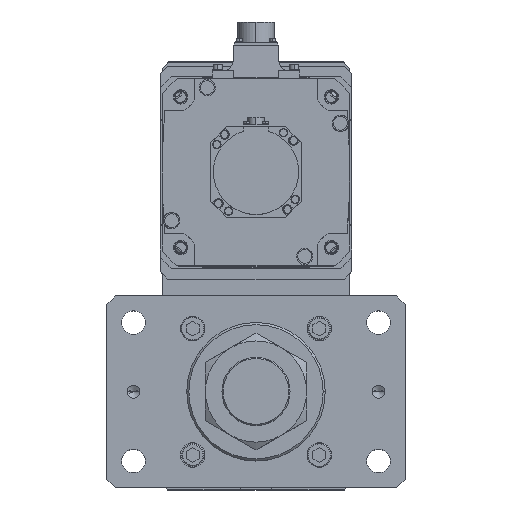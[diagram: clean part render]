
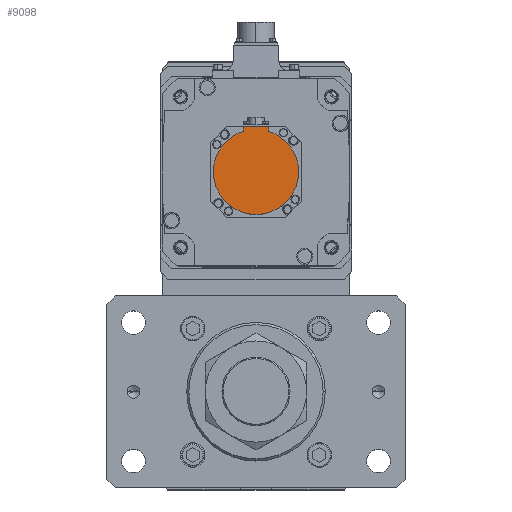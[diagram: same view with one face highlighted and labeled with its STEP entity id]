
A CAD part, top view. The second image highlights one B-rep face of the part: STEP entity #9098.
In plain terms, the highlighted planar face has unit normal (0, 0, 1) as drawn and (0, 0, -1) by its records, which use the part's own axes.
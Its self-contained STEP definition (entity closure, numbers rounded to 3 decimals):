
#623 = VECTOR ( 'NONE', #20721, 1000. ) ;
#1088 = EDGE_CURVE ( 'NONE', #27713, #45570, #45007, .T. ) ;
#1122 = VERTEX_POINT ( 'NONE', #49506 ) ;
#1146 = DIRECTION ( 'NONE',  ( 1., 0., 0. ) ) ;
#1689 = DIRECTION ( 'NONE',  ( 0., 0., 1. ) ) ;
#1940 = ORIENTED_EDGE ( 'NONE', *, *, #39112, .F. ) ;
#3575 = DIRECTION ( 'NONE',  ( -1., 0., 0. ) ) ;
#4083 = CIRCLE ( 'NONE', #32703, 40. ) ;
#4518 = CARTESIAN_POINT ( 'NONE',  ( 0., -42.5, -178.5 ) ) ;
#6189 = CIRCLE ( 'NONE', #45205, 40. ) ;
#6974 = CARTESIAN_POINT ( 'NONE',  ( 0., 0., -178.5 ) ) ;
#7068 = AXIS2_PLACEMENT_3D ( 'NONE', #6974, #43072, #18746 ) ;
#8842 = ORIENTED_EDGE ( 'NONE', *, *, #21661, .T. ) ;
#9014 = CARTESIAN_POINT ( 'NONE',  ( 40., 0., -178.5 ) ) ;
#9098 = ADVANCED_FACE ( 'NONE', ( #12013 ), #9211, .F. ) ;
#9211 = PLANE ( 'NONE',  #17041 ) ;
#9448 = EDGE_CURVE ( 'NONE', #27713, #10999, #13269, .T. ) ;
#10999 = VERTEX_POINT ( 'NONE', #17941 ) ;
#11503 = ORIENTED_EDGE ( 'NONE', *, *, #27437, .F. ) ;
#12013 = FACE_OUTER_BOUND ( 'NONE', #38211, .T. ) ;
#13269 = LINE ( 'NONE', #4518, #20931 ) ;
#13308 = CARTESIAN_POINT ( 'NONE',  ( 0., -1.249, -178.5 ) ) ;
#15679 = CIRCLE ( 'NONE', #7068, 40. ) ;
#17041 = AXIS2_PLACEMENT_3D ( 'NONE', #13308, #21501, #29652 ) ;
#17941 = CARTESIAN_POINT ( 'NONE',  ( -12., -42.5, -178.5 ) ) ;
#18210 = DIRECTION ( 'NONE',  ( 1., 0., 0. ) ) ;
#18746 = DIRECTION ( 'NONE',  ( 1., 0., 0. ) ) ;
#20721 = DIRECTION ( 'NONE',  ( 0., 1., 0. ) ) ;
#20931 = VECTOR ( 'NONE', #3575, 1000. ) ;
#21501 = DIRECTION ( 'NONE',  ( 0., 0., 1. ) ) ;
#21661 = EDGE_CURVE ( 'NONE', #10999, #1122, #46353, .T. ) ;
#21759 = CARTESIAN_POINT ( 'NONE',  ( 0., 0., -178.5 ) ) ;
#24490 = CARTESIAN_POINT ( 'NONE',  ( -40., 0., -178.5 ) ) ;
#25844 = DIRECTION ( 'NONE',  ( 0., 0., 1. ) ) ;
#27437 = EDGE_CURVE ( 'NONE', #45570, #30387, #6189, .T. ) ;
#27713 = VERTEX_POINT ( 'NONE', #51896 ) ;
#29652 = DIRECTION ( 'NONE',  ( 1., 0., 0. ) ) ;
#30387 = VERTEX_POINT ( 'NONE', #9014 ) ;
#32703 = AXIS2_PLACEMENT_3D ( 'NONE', #21759, #25844, #1146 ) ;
#34219 = CARTESIAN_POINT ( 'NONE',  ( 12., -38.158, -178.5 ) ) ;
#37361 = ORIENTED_EDGE ( 'NONE', *, *, #9448, .T. ) ;
#37390 = EDGE_CURVE ( 'NONE', #49571, #1122, #15679, .T. ) ;
#37585 = CARTESIAN_POINT ( 'NONE',  ( 12., -1.249, -178.5 ) ) ;
#38211 = EDGE_LOOP ( 'NONE', ( #8842, #49762, #1940, #11503, #49922, #37361 ) ) ;
#39112 = EDGE_CURVE ( 'NONE', #30387, #49571, #4083, .T. ) ;
#43072 = DIRECTION ( 'NONE',  ( 0., 0., 1. ) ) ;
#45007 = LINE ( 'NONE', #37585, #45662 ) ;
#45205 = AXIS2_PLACEMENT_3D ( 'NONE', #46243, #1689, #18210 ) ;
#45570 = VERTEX_POINT ( 'NONE', #34219 ) ;
#45662 = VECTOR ( 'NONE', #49870, 1000. ) ;
#46243 = CARTESIAN_POINT ( 'NONE',  ( 0., 0., -178.5 ) ) ;
#46353 = LINE ( 'NONE', #49791, #623 ) ;
#49506 = CARTESIAN_POINT ( 'NONE',  ( -12., -38.158, -178.5 ) ) ;
#49571 = VERTEX_POINT ( 'NONE', #24490 ) ;
#49762 = ORIENTED_EDGE ( 'NONE', *, *, #37390, .F. ) ;
#49791 = CARTESIAN_POINT ( 'NONE',  ( -12., -40.329, -178.5 ) ) ;
#49870 = DIRECTION ( 'NONE',  ( 0., 1., 0. ) ) ;
#49922 = ORIENTED_EDGE ( 'NONE', *, *, #1088, .F. ) ;
#51896 = CARTESIAN_POINT ( 'NONE',  ( 12., -42.5, -178.5 ) ) ;
